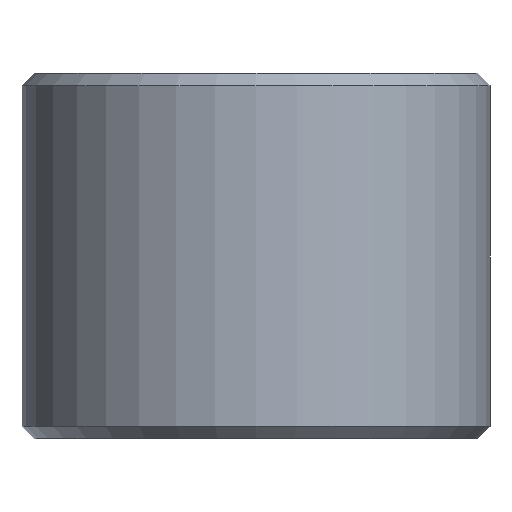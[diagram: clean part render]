
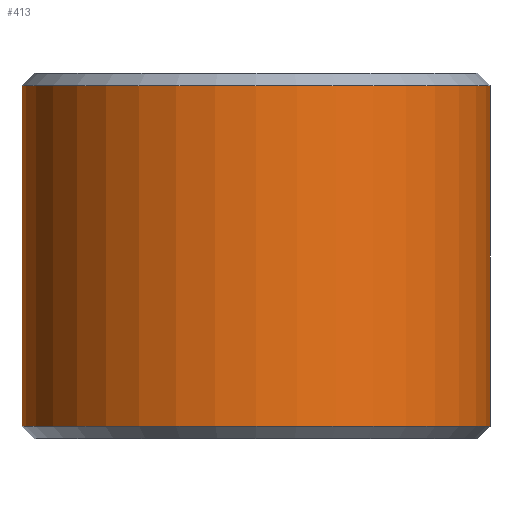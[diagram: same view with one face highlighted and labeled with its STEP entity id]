
A CAD part, front view. The second image highlights one B-rep face of the part: STEP entity #413.
In plain terms, the highlighted cylindrical face has radius 25 mm (diameter 50 mm), a partial arc.
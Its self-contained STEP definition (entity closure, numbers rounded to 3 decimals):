
#23 = DIRECTION ( 'NONE',  ( 0., 0., -1. ) ) ;
#24 = VECTOR ( 'NONE', #301, 1000. ) ;
#27 = CARTESIAN_POINT ( 'NONE',  ( -25., 0., -18.2 ) ) ;
#41 = CIRCLE ( 'NONE', #86, 25. ) ;
#58 = CARTESIAN_POINT ( 'NONE',  ( 0., 0., 18.2 ) ) ;
#63 = EDGE_CURVE ( 'NONE', #310, #335, #118, .T. ) ;
#76 = ORIENTED_EDGE ( 'NONE', *, *, #63, .F. ) ;
#83 = CARTESIAN_POINT ( 'NONE',  ( 25., 0., 19.5 ) ) ;
#86 = AXIS2_PLACEMENT_3D ( 'NONE', #58, #23, #88 ) ;
#88 = DIRECTION ( 'NONE',  ( 1., 0., 0. ) ) ;
#93 = AXIS2_PLACEMENT_3D ( 'NONE', #443, #125, #220 ) ;
#102 = FACE_OUTER_BOUND ( 'NONE', #320, .T. ) ;
#118 = LINE ( 'NONE', #83, #360 ) ;
#125 = DIRECTION ( 'NONE',  ( 0., 0., 1. ) ) ;
#163 = CARTESIAN_POINT ( 'NONE',  ( 0., 0., 19.5 ) ) ;
#169 = CARTESIAN_POINT ( 'NONE',  ( -25., 0., 18.2 ) ) ;
#183 = VERTEX_POINT ( 'NONE', #27 ) ;
#206 = ORIENTED_EDGE ( 'NONE', *, *, #246, .T. ) ;
#207 = AXIS2_PLACEMENT_3D ( 'NONE', #163, #231, #276 ) ;
#214 = EDGE_CURVE ( 'NONE', #445, #183, #223, .T. ) ;
#220 = DIRECTION ( 'NONE',  ( 1., 0., 0. ) ) ;
#223 = LINE ( 'NONE', #297, #24 ) ;
#231 = DIRECTION ( 'NONE',  ( 0., 0., -1. ) ) ;
#232 = ORIENTED_EDGE ( 'NONE', *, *, #214, .T. ) ;
#246 = EDGE_CURVE ( 'NONE', #310, #445, #41, .T. ) ;
#250 = CIRCLE ( 'NONE', #93, 25. ) ;
#275 = CARTESIAN_POINT ( 'NONE',  ( 25., 0., 18.2 ) ) ;
#276 = DIRECTION ( 'NONE',  ( -1., 0., 0. ) ) ;
#283 = EDGE_CURVE ( 'NONE', #183, #335, #250, .T. ) ;
#297 = CARTESIAN_POINT ( 'NONE',  ( -25., 0., 19.5 ) ) ;
#301 = DIRECTION ( 'NONE',  ( 0., 0., -1. ) ) ;
#310 = VERTEX_POINT ( 'NONE', #275 ) ;
#320 = EDGE_LOOP ( 'NONE', ( #76, #206, #232, #411 ) ) ;
#335 = VERTEX_POINT ( 'NONE', #373 ) ;
#360 = VECTOR ( 'NONE', #425, 1000. ) ;
#373 = CARTESIAN_POINT ( 'NONE',  ( 25., 0., -18.2 ) ) ;
#379 = CYLINDRICAL_SURFACE ( 'NONE', #207, 25. ) ;
#411 = ORIENTED_EDGE ( 'NONE', *, *, #283, .T. ) ;
#413 = ADVANCED_FACE ( 'NONE', ( #102 ), #379, .T. ) ;
#425 = DIRECTION ( 'NONE',  ( 0., 0., -1. ) ) ;
#443 = CARTESIAN_POINT ( 'NONE',  ( 0., 0., -18.2 ) ) ;
#445 = VERTEX_POINT ( 'NONE', #169 ) ;
